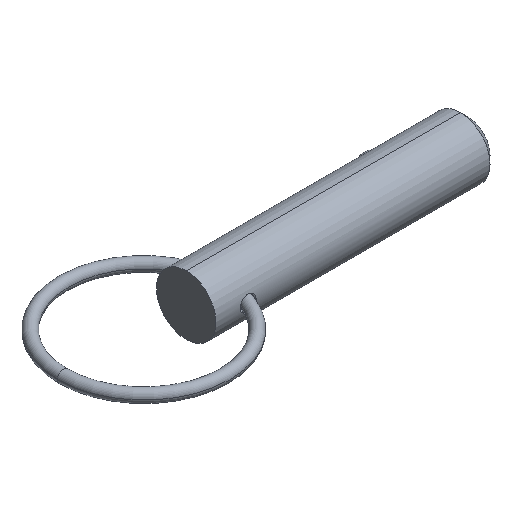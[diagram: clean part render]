
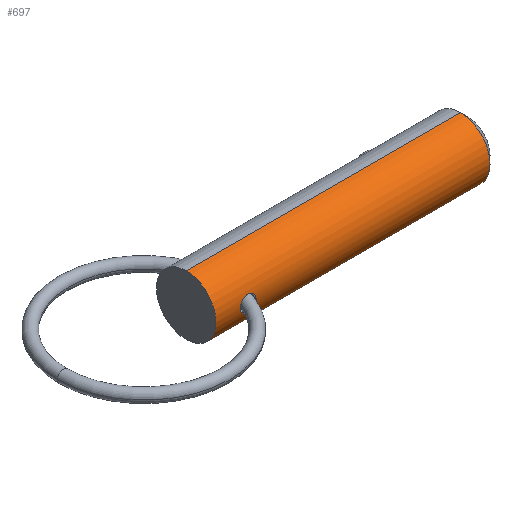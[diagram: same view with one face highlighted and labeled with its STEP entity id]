
A CAD part, isometric view. The second image highlights one B-rep face of the part: STEP entity #697.
In plain terms, the highlighted cylindrical face has radius 4.7 mm (diameter 9.4 mm), a partial arc.
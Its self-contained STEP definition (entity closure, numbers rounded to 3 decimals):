
#4 = CARTESIAN_POINT ( 'NONE',  ( 43.275, 0., 4.7 ) ) ;
#12 = CARTESIAN_POINT ( 'NONE',  ( 0., 0., -4.7 ) ) ;
#21 = CARTESIAN_POINT ( 'NONE',  ( 6.094, -4.642, -0.742 ) ) ;
#27 = ORIENTED_EDGE ( 'NONE', *, *, #241, .T. ) ;
#44 = CARTESIAN_POINT ( 'NONE',  ( 0., 0., -4.7 ) ) ;
#95 = DIRECTION ( 'NONE',  ( 0., 0., -1. ) ) ;
#100 = CARTESIAN_POINT ( 'NONE',  ( 4.487, -4.589, -1.018 ) ) ;
#109 = EDGE_CURVE ( 'NONE', #223, #305, #707, .T. ) ;
#110 = FACE_OUTER_BOUND ( 'NONE', #481, .T. ) ;
#116 = CARTESIAN_POINT ( 'NONE',  ( 6.317, -4.691, 0.321 ) ) ;
#126 = CARTESIAN_POINT ( 'NONE',  ( 0., 0., 4.7 ) ) ;
#154 = CARTESIAN_POINT ( 'NONE',  ( 6.185, -4.66, -0.612 ) ) ;
#156 = B_SPLINE_CURVE_WITH_KNOTS ( 'NONE', 3,
 ( #233, #439, #170, #374, #154, #21, #494, #755, #695, #832, #505, #824, #620, #100, #685, #569, #629, #835, #691, #559, #827, #293 ),
 .UNSPECIFIED., .F., .F.,
 ( 4, 2, 2, 2, 2, 2, 2, 2, 2, 2, 4 ),
 ( 0.005, 0.005, 0.005, 0.006, 0.006, 0.007, 0.007, 0.008, 0.008, 0.008, 0.009 ),
 .UNSPECIFIED. ) ;
#165 = CARTESIAN_POINT ( 'NONE',  ( 3.859, -4.691, 0.32 ) ) ;
#170 = CARTESIAN_POINT ( 'NONE',  ( 6.318, -4.691, -0.32 ) ) ;
#177 = EDGE_CURVE ( 'NONE', #814, #289, #715, .T. ) ;
#186 = DIRECTION ( 'NONE',  ( 1., 0., 0. ) ) ;
#196 = CARTESIAN_POINT ( 'NONE',  ( 0., 0., 0. ) ) ;
#217 = EDGE_CURVE ( 'NONE', #814, #275, #247, .T. ) ;
#223 = VERTEX_POINT ( 'NONE', #584 ) ;
#229 = CARTESIAN_POINT ( 'NONE',  ( 3.818, -4.7, 0. ) ) ;
#231 = AXIS2_PLACEMENT_3D ( 'NONE', #597, #186, #533 ) ;
#233 = CARTESIAN_POINT ( 'NONE',  ( 6.35, -4.7, 0. ) ) ;
#235 = CARTESIAN_POINT ( 'NONE',  ( 4.788, -4.561, 1.135 ) ) ;
#241 = EDGE_CURVE ( 'NONE', #289, #482, #385, .T. ) ;
#247 = LINE ( 'NONE', #657, #594 ) ;
#251 = CYLINDRICAL_SURFACE ( 'NONE', #857, 4.7 ) ;
#256 = CARTESIAN_POINT ( 'NONE',  ( 5.503, -4.562, 1.13 ) ) ;
#275 = VERTEX_POINT ( 'NONE', #4 ) ;
#280 = ORIENTED_EDGE ( 'NONE', *, *, #109, .T. ) ;
#289 = VERTEX_POINT ( 'NONE', #12 ) ;
#293 = CARTESIAN_POINT ( 'NONE',  ( 3.818, -4.7, 0. ) ) ;
#295 = EDGE_LOOP ( 'NONE', ( #280, #432 ) ) ;
#304 = DIRECTION ( 'NONE',  ( 1., 0., 0. ) ) ;
#305 = VERTEX_POINT ( 'NONE', #412 ) ;
#310 = CARTESIAN_POINT ( 'NONE',  ( 4.005, -4.663, 0.605 ) ) ;
#312 = DIRECTION ( 'NONE',  ( 1., 0., 0. ) ) ;
#332 = CARTESIAN_POINT ( 'NONE',  ( 5.861, -4.601, 0.96 ) ) ;
#367 = CARTESIAN_POINT ( 'NONE',  ( 4.491, -4.588, 1.02 ) ) ;
#370 = ORIENTED_EDGE ( 'NONE', *, *, #529, .F. ) ;
#374 = CARTESIAN_POINT ( 'NONE',  ( 6.223, -4.669, -0.542 ) ) ;
#377 = FACE_BOUND ( 'NONE', #295, .T. ) ;
#379 = CARTESIAN_POINT ( 'NONE',  ( 4.352, -4.607, 0.938 ) ) ;
#385 = LINE ( 'NONE', #44, #543 ) ;
#388 = AXIS2_PLACEMENT_3D ( 'NONE', #435, #304, #95 ) ;
#390 = CARTESIAN_POINT ( 'NONE',  ( 6.1, -4.641, 0.749 ) ) ;
#412 = CARTESIAN_POINT ( 'NONE',  ( 6.35, -4.7, 0. ) ) ;
#432 = ORIENTED_EDGE ( 'NONE', *, *, #553, .T. ) ;
#435 = CARTESIAN_POINT ( 'NONE',  ( 43.275, 0., 0. ) ) ;
#436 = CARTESIAN_POINT ( 'NONE',  ( 4.108, -4.644, 0.73 ) ) ;
#439 = CARTESIAN_POINT ( 'NONE',  ( 6.35, -4.7, -0.161 ) ) ;
#452 = CARTESIAN_POINT ( 'NONE',  ( 6.193, -4.662, 0.614 ) ) ;
#455 = DIRECTION ( 'NONE',  ( 1., 0., 0. ) ) ;
#462 = CARTESIAN_POINT ( 'NONE',  ( 6.35, -4.7, 0. ) ) ;
#481 = EDGE_LOOP ( 'NONE', ( #565, #698, #27, #370 ) ) ;
#482 = VERTEX_POINT ( 'NONE', #805 ) ;
#494 = CARTESIAN_POINT ( 'NONE',  ( 6.041, -4.631, -0.803 ) ) ;
#496 = CARTESIAN_POINT ( 'NONE',  ( 5.187, -4.55, 1.177 ) ) ;
#505 = CARTESIAN_POINT ( 'NONE',  ( 5.265, -4.55, -1.18 ) ) ;
#527 = CARTESIAN_POINT ( 'NONE',  ( 5.424, -4.557, 1.149 ) ) ;
#529 = EDGE_CURVE ( 'NONE', #275, #482, #555, .T. ) ;
#533 = DIRECTION ( 'NONE',  ( 0., 0., -1. ) ) ;
#543 = VECTOR ( 'NONE', #455, 1000. ) ;
#553 = EDGE_CURVE ( 'NONE', #305, #223, #156, .T. ) ;
#555 = CIRCLE ( 'NONE', #388, 4.7 ) ;
#559 = CARTESIAN_POINT ( 'NONE',  ( 3.829, -4.698, -0.161 ) ) ;
#565 = ORIENTED_EDGE ( 'NONE', *, *, #217, .F. ) ;
#569 = CARTESIAN_POINT ( 'NONE',  ( 4.107, -4.644, -0.729 ) ) ;
#584 = CARTESIAN_POINT ( 'NONE',  ( 3.818, -4.7, 0. ) ) ;
#594 = VECTOR ( 'NONE', #780, 1000. ) ;
#597 = CARTESIAN_POINT ( 'NONE',  ( 0., 0., 0. ) ) ;
#620 = CARTESIAN_POINT ( 'NONE',  ( 4.785, -4.561, -1.135 ) ) ;
#629 = CARTESIAN_POINT ( 'NONE',  ( 4.005, -4.663, -0.605 ) ) ;
#645 = CARTESIAN_POINT ( 'NONE',  ( 5.266, -4.551, 1.173 ) ) ;
#651 = CARTESIAN_POINT ( 'NONE',  ( 6.35, -4.7, 0.161 ) ) ;
#657 = CARTESIAN_POINT ( 'NONE',  ( 0., 0., 4.7 ) ) ;
#685 = CARTESIAN_POINT ( 'NONE',  ( 4.349, -4.607, -0.937 ) ) ;
#690 = CARTESIAN_POINT ( 'NONE',  ( 3.818, -4.7, 0.16 ) ) ;
#691 = CARTESIAN_POINT ( 'NONE',  ( 3.867, -4.69, -0.315 ) ) ;
#695 = CARTESIAN_POINT ( 'NONE',  ( 5.727, -4.582, -1.05 ) ) ;
#697 = ADVANCED_FACE ( 'NONE', ( #110, #377 ), #251, .T. ) ;
#698 = ORIENTED_EDGE ( 'NONE', *, *, #177, .T. ) ;
#707 = B_SPLINE_CURVE_WITH_KNOTS ( 'NONE', 3,
 ( #229, #690, #165, #310, #436, #379, #367, #235, #841, #496, #645, #527, #256, #850, #722, #332, #790, #390, #452, #116, #651, #462 ),
 .UNSPECIFIED., .F., .F.,
 ( 4, 2, 2, 2, 2, 2, 2, 2, 2, 2, 4 ),
 ( 0.001, 0.001, 0.002, 0.002, 0.003, 0.003, 0.003, 0.004, 0.004, 0.004, 0.005 ),
 .UNSPECIFIED. ) ;
#715 = CIRCLE ( 'NONE', #231, 4.7 ) ;
#722 = CARTESIAN_POINT ( 'NONE',  ( 5.725, -4.583, 1.042 ) ) ;
#755 = CARTESIAN_POINT ( 'NONE',  ( 5.867, -4.601, -0.966 ) ) ;
#780 = DIRECTION ( 'NONE',  ( 1., 0., 0. ) ) ;
#790 = CARTESIAN_POINT ( 'NONE',  ( 5.926, -4.611, 0.911 ) ) ;
#795 = DIRECTION ( 'NONE',  ( 0., 0., -1. ) ) ;
#805 = CARTESIAN_POINT ( 'NONE',  ( 43.275, 0., -4.7 ) ) ;
#814 = VERTEX_POINT ( 'NONE', #126 ) ;
#824 = CARTESIAN_POINT ( 'NONE',  ( 4.945, -4.552, -1.169 ) ) ;
#827 = CARTESIAN_POINT ( 'NONE',  ( 3.818, -4.7, -0.08 ) ) ;
#832 = CARTESIAN_POINT ( 'NONE',  ( 5.427, -4.556, -1.156 ) ) ;
#835 = CARTESIAN_POINT ( 'NONE',  ( 3.895, -4.684, -0.39 ) ) ;
#841 = CARTESIAN_POINT ( 'NONE',  ( 4.947, -4.552, 1.169 ) ) ;
#850 = CARTESIAN_POINT ( 'NONE',  ( 5.654, -4.575, 1.076 ) ) ;
#857 = AXIS2_PLACEMENT_3D ( 'NONE', #196, #312, #795 ) ;
